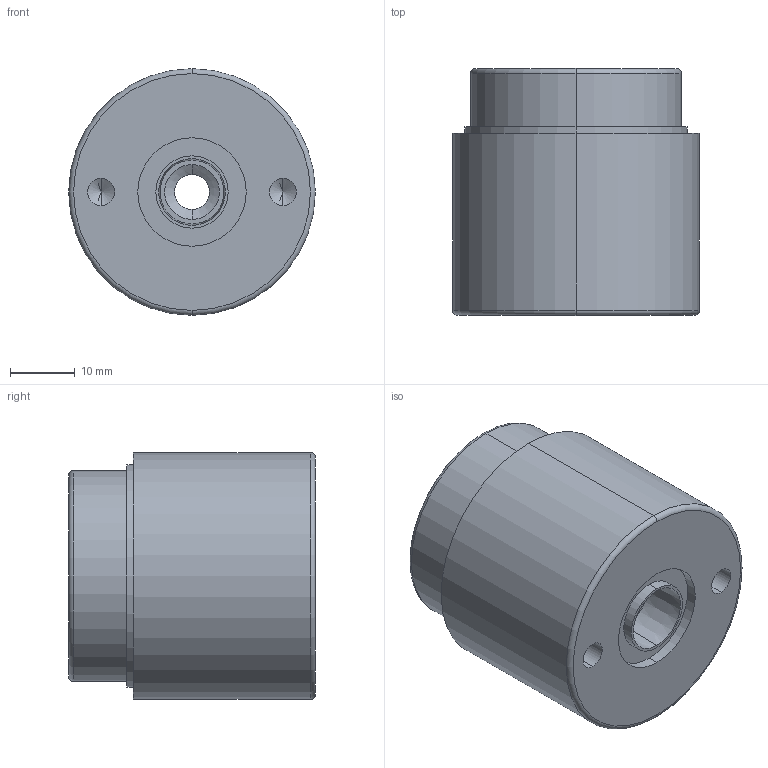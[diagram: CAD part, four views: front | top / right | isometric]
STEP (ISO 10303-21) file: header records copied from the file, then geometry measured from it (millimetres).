
FILE_DESCRIPTION (( 'STEP AP203' ), '1' );
FILE_NAME ('01 Body Style.STEP', '2020-02-08T22:06:03', ( '' ), ( '' ), 'SwSTEP 2.0', 'SolidWorks 2017', '' );
FILE_SCHEMA (( 'CONFIG_CONTROL_DESIGN' ));
Length unit declared in the file: inch
Products named in the file (1): 01 Body Style
Bounding box: 38 x 38 x 38 mm (x, y, z)
Volume: 36663.2 mm3; surface area: 8099.2 mm2
Topology: 1 solids, 1 shells, 38 faces, 80 edges, 48 vertices
Faces by surface type: cylinder 18, cone 8, plane 8, torus 4
Entity records: 1089 total; most frequent: DIRECTION 204, CARTESIAN_POINT 163, ORIENTED_EDGE 152, AXIS2_PLACEMENT_3D 89, EDGE_CURVE 76, CIRCLE 50, VERTEX_POINT 48, EDGE_LOOP 48
